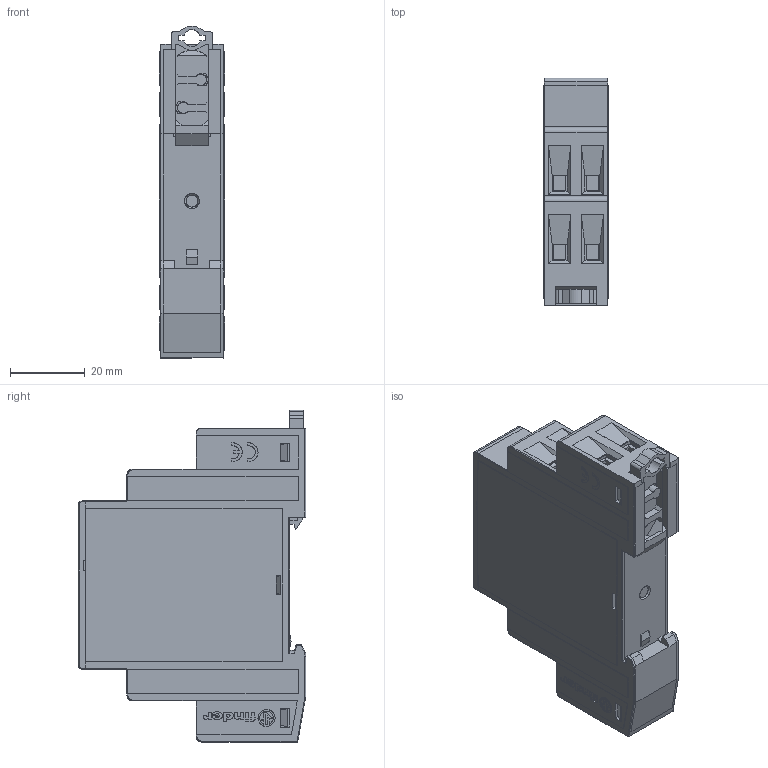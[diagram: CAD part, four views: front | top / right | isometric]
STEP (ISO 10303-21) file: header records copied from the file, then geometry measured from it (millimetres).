
FILE_DESCRIPTION(('STEP AP214'),'2;1');
FILE_NAME('14_81---catalogo_OK.stp','2011-02-17T10:45:38',(''),(''),'2007.1.106','THINKDESIGN','');
FILE_SCHEMA(('AUTOMOTIVE_DESIGN'));
Products named in the file (1): None
Bounding box: 17.5 x 60.8 x 88.85 mm (x, y, z)
Surface area: 18348.1 mm2 (no closed solid volume)
Topology: 0 solids, 0 shells, 1005 faces, 6056 edges, 6040 vertices
Faces by surface type: plane 794, cylinder 116, bspline 95
Full cylindrical faces by diameter (mm): 3 x6, 5 x5
Entity records: 61765 total; most frequent: CARTESIAN_POINT 18718, DIRECTION 7433, COMPOSITE_CURVE_SEGMENT 6056, TRIMMED_CURVE 5376, VECTOR 5173, LINE 5173, AXIS2_PLACEMENT_3D 1130, OUTER_BOUNDARY_CURVE 1005
